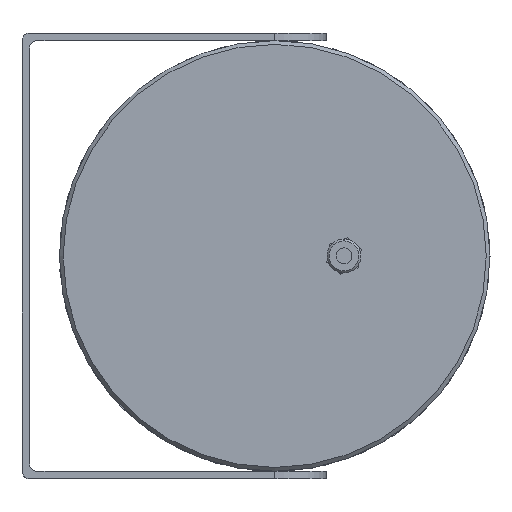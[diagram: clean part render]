
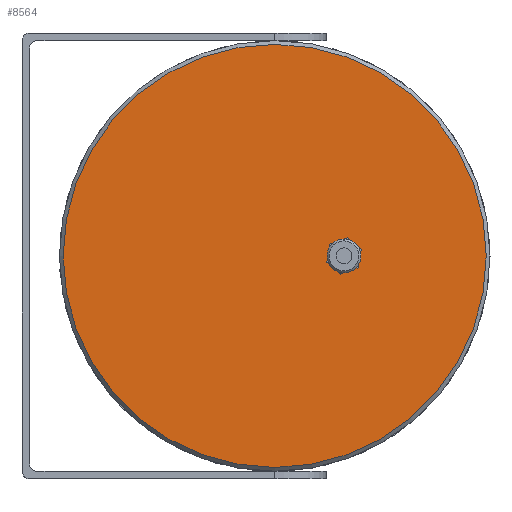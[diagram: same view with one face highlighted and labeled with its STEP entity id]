
A CAD part, top view. The second image highlights one B-rep face of the part: STEP entity #8564.
In plain terms, the highlighted planar face has unit normal (0, 0, 1) as drawn and (-1, 0, 0) by its records, which use the part's own axes.
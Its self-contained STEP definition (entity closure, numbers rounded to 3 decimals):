
#1881=PLANE('',#9047);
#3211=VERTEX_POINT('',#11113);
#3239=VERTEX_POINT('',#11180);
#3957=CIRCLE('',#9006,8.);
#3977=CIRCLE('',#9045,113.);
#4170=EDGE_CURVE('',#3211,#3211,#3957,.T.);
#4190=EDGE_CURVE('',#3239,#3239,#3977,.T.);
#5214=ORIENTED_EDGE('',*,*,#4170,.T.);
#5215=ORIENTED_EDGE('',*,*,#4190,.F.);
#7218=EDGE_LOOP('',(#5214));
#7219=EDGE_LOOP('',(#5215));
#7894=FACE_BOUND('',#7218,.T.);
#7895=FACE_BOUND('',#7219,.T.);
#8564=ADVANCED_FACE('',(#7894,#7895),#1881,.T.);
#9006=AXIS2_PLACEMENT_3D('',#11112,#9598,#9599);
#9045=AXIS2_PLACEMENT_3D('',#11179,#9675,#9676);
#9047=AXIS2_PLACEMENT_3D('',#11183,#9679,$);
#9598=DIRECTION('',(1.,0.,0.));
#9599=DIRECTION('',(0.,0.,-8.));
#9675=DIRECTION('',(1.,0.,0.));
#9676=DIRECTION('',(0.,-113.,0.));
#9679=DIRECTION('',(-1.,0.,0.));
#11112=CARTESIAN_POINT('',(28.,0.,37.));
#11113=CARTESIAN_POINT('',(28.,0.,45.));
#11179=CARTESIAN_POINT('',(28.,0.,0.));
#11180=CARTESIAN_POINT('',(28.,113.,0.));
#11183=CARTESIAN_POINT('',(28.,60.5,0.));
